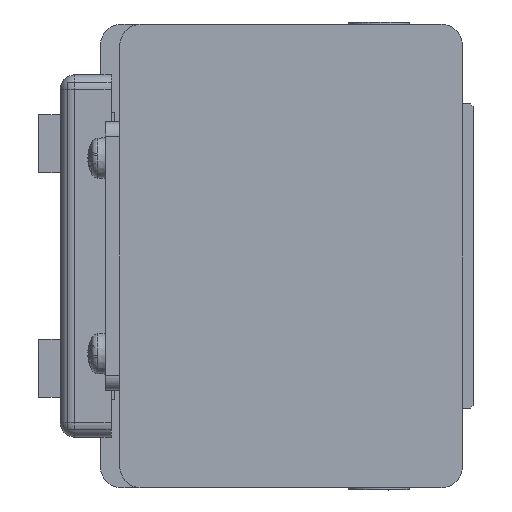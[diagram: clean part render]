
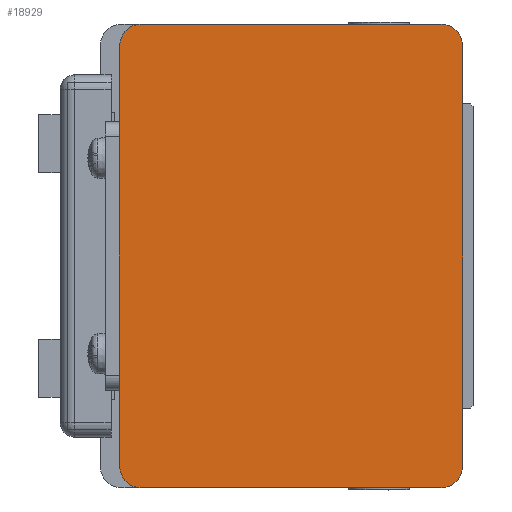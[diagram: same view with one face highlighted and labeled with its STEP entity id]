
A CAD part, left-side view. The second image highlights one B-rep face of the part: STEP entity #18929.
In plain terms, the highlighted planar face has unit normal (-1, 0, 0) as drawn and (0, 0, -1) by its records, which use the part's own axes.
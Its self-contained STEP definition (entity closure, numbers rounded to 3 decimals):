
#779=LINE('',#26723,#2431);
#794=LINE('',#26765,#2446);
#839=LINE('',#26874,#2491);
#861=LINE('',#26943,#2513);
#874=LINE('',#26978,#2526);
#875=LINE('',#26981,#2527);
#876=LINE('',#26982,#2528);
#877=LINE('',#26987,#2529);
#2431=VECTOR('',#21837,19.);
#2446=VECTOR('',#21870,41.3);
#2491=VECTOR('',#21959,41.3);
#2513=VECTOR('',#22019,19.);
#2526=VECTOR('',#22054,0.1);
#2527=VECTOR('',#22057,20.);
#2528=VECTOR('',#22058,0.1);
#2529=VECTOR('',#22063,58.);
#4234=PLANE('',#20159);
#5046=FACE_OUTER_BOUND('',#6156,.T.);
#6156=EDGE_LOOP('',(#12722,#12723,#12724,#12725,#12726,#12727,#12728,#12729,
#12730,#12731,#12732,#12733));
#7398=CIRCLE('',#20160,3.);
#7399=CIRCLE('',#20161,3.);
#7400=CIRCLE('',#20162,3.);
#7401=CIRCLE('',#20163,3.);
#7947=VERTEX_POINT('',#26720);
#7948=VERTEX_POINT('',#26722);
#7965=VERTEX_POINT('',#26762);
#7966=VERTEX_POINT('',#26764);
#8007=VERTEX_POINT('',#26871);
#8008=VERTEX_POINT('',#26873);
#8035=VERTEX_POINT('',#26940);
#8036=VERTEX_POINT('',#26942);
#8047=VERTEX_POINT('',#26976);
#8048=VERTEX_POINT('',#26980);
#8049=VERTEX_POINT('',#26984);
#8050=VERTEX_POINT('',#26986);
#9800=EDGE_CURVE('',#7948,#7947,#779,.T.);
#9821=EDGE_CURVE('',#7966,#7965,#794,.T.);
#9876=EDGE_CURVE('',#8008,#8007,#839,.T.);
#9910=EDGE_CURVE('',#8036,#8035,#861,.T.);
#9929=EDGE_CURVE('',#8047,#7947,#874,.T.);
#9930=EDGE_CURVE('',#8048,#8047,#875,.T.);
#9931=EDGE_CURVE('',#8036,#8048,#876,.T.);
#9932=EDGE_CURVE('',#8035,#8008,#7398,.T.);
#9933=EDGE_CURVE('',#8007,#8049,#7399,.T.);
#9934=EDGE_CURVE('',#8049,#8050,#877,.T.);
#9935=EDGE_CURVE('',#8050,#7966,#7400,.T.);
#9936=EDGE_CURVE('',#7965,#7948,#7401,.T.);
#12722=ORIENTED_EDGE('',*,*,#9800,.T.);
#12723=ORIENTED_EDGE('',*,*,#9929,.F.);
#12724=ORIENTED_EDGE('',*,*,#9930,.F.);
#12725=ORIENTED_EDGE('',*,*,#9931,.F.);
#12726=ORIENTED_EDGE('',*,*,#9910,.T.);
#12727=ORIENTED_EDGE('',*,*,#9932,.T.);
#12728=ORIENTED_EDGE('',*,*,#9876,.T.);
#12729=ORIENTED_EDGE('',*,*,#9933,.T.);
#12730=ORIENTED_EDGE('',*,*,#9934,.T.);
#12731=ORIENTED_EDGE('',*,*,#9935,.T.);
#12732=ORIENTED_EDGE('',*,*,#9821,.T.);
#12733=ORIENTED_EDGE('',*,*,#9936,.T.);
#18929=ADVANCED_FACE('',(#5046),#4234,.F.);
#20159=AXIS2_PLACEMENT_3D('',#26979,#22055,#22056);
#20160=AXIS2_PLACEMENT_3D('',#26983,#22059,#22060);
#20161=AXIS2_PLACEMENT_3D('',#26985,#22061,#22062);
#20162=AXIS2_PLACEMENT_3D('',#26988,#22064,#22065);
#20163=AXIS2_PLACEMENT_3D('',#26989,#22066,#22067);
#21837=DIRECTION('',(1.,0.,0.));
#21870=DIRECTION('',(0.,1.,0.));
#21959=DIRECTION('',(0.,-1.,0.));
#22019=DIRECTION('',(1.,0.,0.));
#22054=DIRECTION('',(0.,-1.,0.));
#22055=DIRECTION('center_axis',(0.,0.,1.));
#22056=DIRECTION('ref_axis',(1.,0.,0.));
#22057=DIRECTION('',(-1.,0.,0.));
#22058=DIRECTION('',(0.,1.,0.));
#22059=DIRECTION('center_axis',(0.,0.,-1.));
#22060=DIRECTION('ref_axis',(-1.,0.,0.));
#22061=DIRECTION('center_axis',(0.,0.,-1.));
#22062=DIRECTION('ref_axis',(0.,1.,0.));
#22063=DIRECTION('',(-1.,0.,0.));
#22064=DIRECTION('center_axis',(0.,0.,-1.));
#22065=DIRECTION('ref_axis',(1.,0.,0.));
#22066=DIRECTION('center_axis',(0.,0.,-1.));
#22067=DIRECTION('ref_axis',(0.,-1.,0.));
#26720=CARTESIAN_POINT('',(22.,48.8,-492.));
#26722=CARTESIAN_POINT('',(3.,48.8,-492.));
#26723=CARTESIAN_POINT('',(3.,48.8,-492.));
#26762=CARTESIAN_POINT('',(0.,45.8,-492.));
#26764=CARTESIAN_POINT('',(0.,4.5,-492.));
#26765=CARTESIAN_POINT('',(0.,4.5,-492.));
#26871=CARTESIAN_POINT('',(64.,4.5,-492.));
#26873=CARTESIAN_POINT('',(64.,45.8,-492.));
#26874=CARTESIAN_POINT('',(64.,45.8,-492.));
#26940=CARTESIAN_POINT('',(61.,48.8,-492.));
#26942=CARTESIAN_POINT('',(42.,48.8,-492.));
#26943=CARTESIAN_POINT('',(42.,48.8,-492.));
#26976=CARTESIAN_POINT('',(22.,48.9,-492.));
#26978=CARTESIAN_POINT('',(22.,48.9,-492.));
#26979=CARTESIAN_POINT('Origin',(32.,25.15,-492.));
#26980=CARTESIAN_POINT('',(42.,48.9,-492.));
#26981=CARTESIAN_POINT('',(42.,48.9,-492.));
#26982=CARTESIAN_POINT('',(42.,48.8,-492.));
#26983=CARTESIAN_POINT('Origin',(61.,45.8,-492.));
#26984=CARTESIAN_POINT('',(61.,1.5,-492.));
#26985=CARTESIAN_POINT('Origin',(61.,4.5,-492.));
#26986=CARTESIAN_POINT('',(3.,1.5,-492.));
#26987=CARTESIAN_POINT('',(61.,1.5,-492.));
#26988=CARTESIAN_POINT('Origin',(3.,4.5,-492.));
#26989=CARTESIAN_POINT('Origin',(3.,45.8,-492.));
